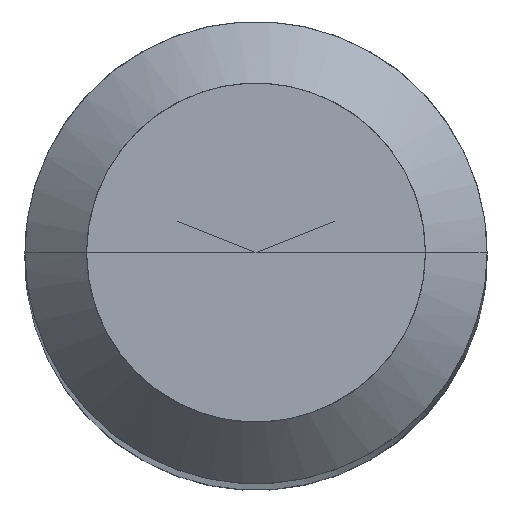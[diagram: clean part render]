
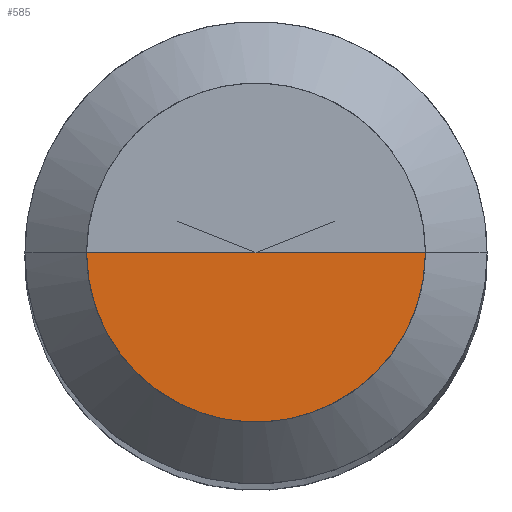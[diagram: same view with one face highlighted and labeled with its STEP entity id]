
A CAD part, top view. The second image highlights one B-rep face of the part: STEP entity #585.
In plain terms, the highlighted free-form (B-spline) face has degree [1, 2] with [2, 5] control points.
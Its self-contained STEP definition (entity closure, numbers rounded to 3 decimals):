
#317=CARTESIAN_POINT('',(2.2,0.0,45.0));
#321=CARTESIAN_POINT('',(-2.2,0.0,45.0));
#322=CARTESIAN_POINT('',(0.0,0.0,45.0));
#326=CARTESIAN_POINT('',(-2.2,-2.2,45.0));
#327=CARTESIAN_POINT('',(0.0,-2.2,45.0));
#328=CARTESIAN_POINT('',(2.2,-2.2,45.0));
#570=(
BOUNDED_SURFACE()
B_SPLINE_SURFACE(1,2,(
(#321,#326,#327,#328,#317),
(#322,#322,#322,#322,#322)
), .UNSPECIFIED.,.F.,.F.,.F.)
B_SPLINE_SURFACE_WITH_KNOTS((2,2),(3,2,3),(
0.0,1.0),(
0.0,0.5,1.0), .UNSPECIFIED.)
GEOMETRIC_REPRESENTATION_ITEM()
RATIONAL_B_SPLINE_SURFACE(((1.0,0.707,1.0,0.707,1.0),
(1.0,0.707,1.0,0.707,1.0)
))
REPRESENTATION_ITEM('')
SURFACE()
);
#571=(
BOUNDED_CURVE()
B_SPLINE_CURVE(2,(#317,#328,#327,#326,#321),.UNSPECIFIED.,.F.,.F.)
B_SPLINE_CURVE_WITH_KNOTS((3,2,3),
(0.0,0.5,1.0),.UNSPECIFIED.)
CURVE()
GEOMETRIC_REPRESENTATION_ITEM()
RATIONAL_B_SPLINE_CURVE((1.0,0.707,1.0,0.707,1.0))
REPRESENTATION_ITEM('')
);
#572=(
BOUNDED_CURVE()
B_SPLINE_CURVE(1,(#321,#322),.UNSPECIFIED.,.F.,.F.)
B_SPLINE_CURVE_WITH_KNOTS((2,2),
(0.0,1.0),.UNSPECIFIED.)
CURVE()
GEOMETRIC_REPRESENTATION_ITEM()
RATIONAL_B_SPLINE_CURVE((1.0,1.0))
REPRESENTATION_ITEM('')
);
#573=(
BOUNDED_CURVE()
B_SPLINE_CURVE(1,(#322,#317),.UNSPECIFIED.,.F.,.F.)
B_SPLINE_CURVE_WITH_KNOTS((2,2),
(0.0,1.0),.UNSPECIFIED.)
CURVE()
GEOMETRIC_REPRESENTATION_ITEM()
RATIONAL_B_SPLINE_CURVE((1.0,1.0))
REPRESENTATION_ITEM('')
);
#574=VERTEX_POINT('',#317);
#575=VERTEX_POINT('',#321);
#576=VERTEX_POINT('',#322);
#577=EDGE_CURVE('',#574,#575,#571,.T.);
#578=EDGE_CURVE('',#575,#576,#572,.T.);
#579=EDGE_CURVE('',#576,#574,#573,.T.);
#580=ORIENTED_EDGE('',*,*,#577,.T.);
#581=ORIENTED_EDGE('',*,*,#578,.T.);
#582=ORIENTED_EDGE('',*,*,#579,.T.);
#583=EDGE_LOOP('',(#580,#581,#582));
#584=FACE_OUTER_BOUND('',#583,.T.);
#585=ADVANCED_FACE('',(#584),#570,.T.);
